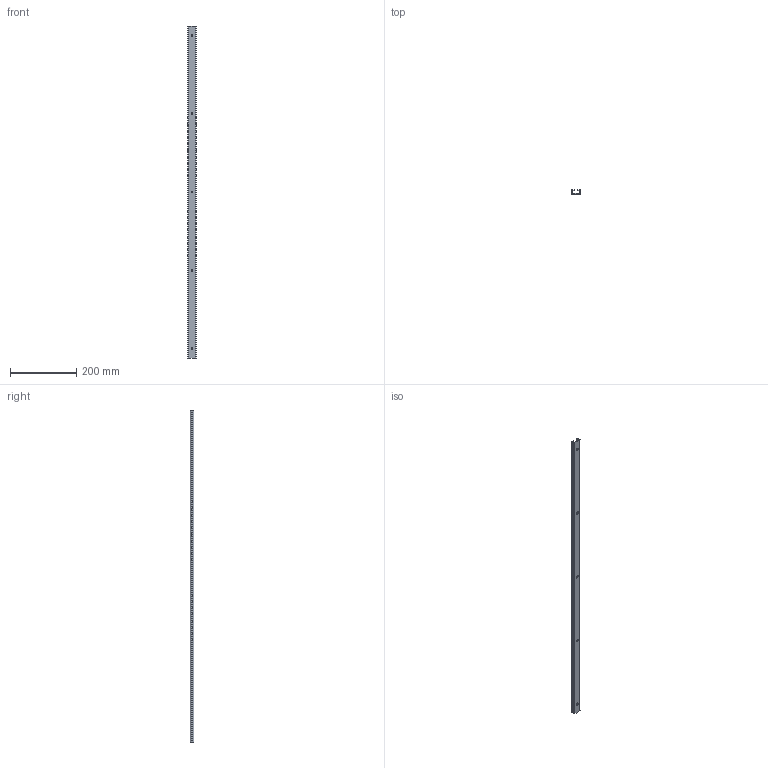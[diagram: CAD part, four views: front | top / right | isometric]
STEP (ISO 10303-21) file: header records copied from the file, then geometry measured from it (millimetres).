
FILE_DESCRIPTION (( 'STEP AP214' ), '1' );
FILE_NAME ('C-skena 1000mm.STEP', '2014-04-10T14:31:01', ( '' ), ( '' ), 'SwSTEP 2.0', 'SolidWorks 2012', '' );
FILE_SCHEMA (( 'AUTOMOTIVE_DESIGN' ));
Length unit declared in the file: millimetre
Products named in the file (1): C-skena 1000mm
Bounding box: 27 x 12 x 1000 mm (x, y, z)
Volume: 108619.6 mm3; surface area: 113172.4 mm2
Topology: 1 solids, 1 shells, 32 faces, 90 edges, 60 vertices
Faces by surface type: plane 14, cone 10, cylinder 8
Entity records: 1346 total; most frequent: DIRECTION 192, CARTESIAN_POINT 183, ORIENTED_EDGE 180, EDGE_CURVE 90, AXIS2_PLACEMENT_3D 69, VERTEX_POINT 60, LINE 54, VECTOR 54
